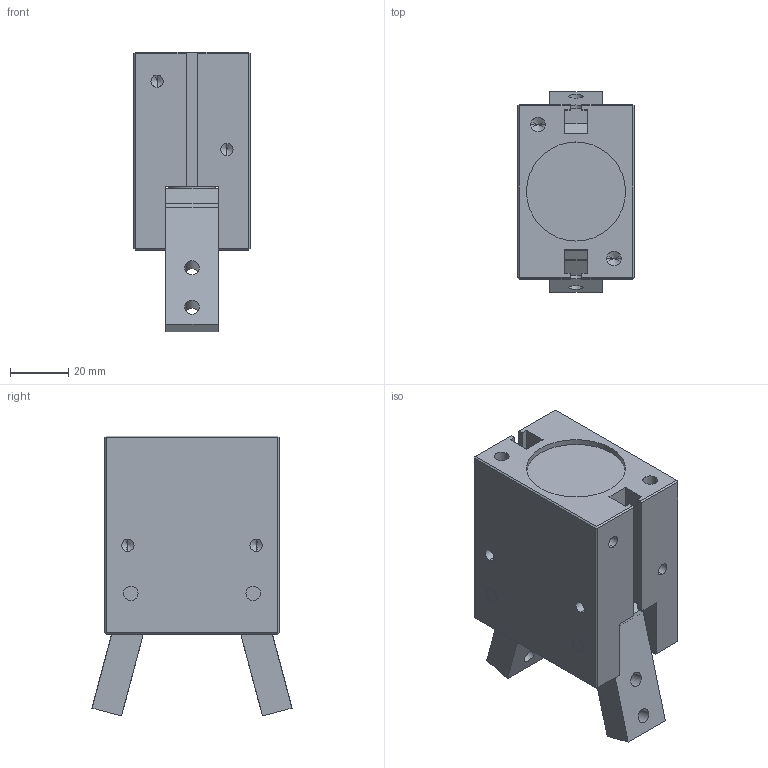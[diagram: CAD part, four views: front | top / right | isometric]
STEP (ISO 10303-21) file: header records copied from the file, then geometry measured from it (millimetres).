
FILE_DESCRIPTION (( 'STEP AP203' ), '1' );
FILE_NAME ('GDS.32-OPEN.STEP', '2011-10-20T12:12:35', ( 'Christophe Gaillard' ), ( 'SGA' ), 'SwSTEP 2.0', 'SolidWorks 2010', '' );
FILE_SCHEMA (( 'CONFIG_CONTROL_DESIGN' ));
Products named in the file (6): Pièce31; GDS.32-OPEN; Pièce1; mors; Pièce11; Pièce7
Assembly tree (8 placements, depth 2):
  GDS.32-OPEN
    Pièce1
    Pièce11  x2
    mors  x2
    Pièce7  x2
    Pièce31
Bounding box: 40 x 68.68 x 96.1 mm (x, y, z)
Volume: 151269.6 mm3; surface area: 38605.4 mm2
Topology: 8 solids, 8 shells, 596 faces, 1575 edges, 1026 vertices
Faces by surface type: plane 309, bspline 223, cylinder 48, cone 16
Entity records: 33239 total; most frequent: CARTESIAN_POINT 19935, ORIENTED_EDGE 2986, DIRECTION 1845, EDGE_CURVE 1493, VERTEX_POINT 982, VECTOR 961, LINE 961, EDGE_LOOP 629
